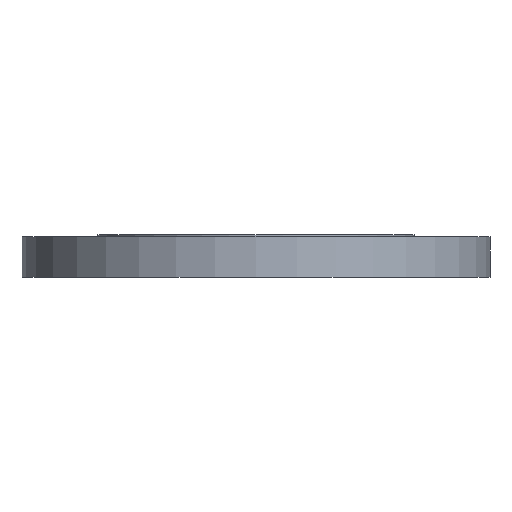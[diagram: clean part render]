
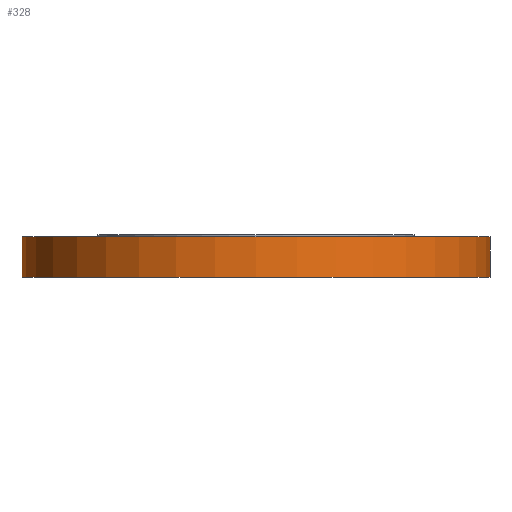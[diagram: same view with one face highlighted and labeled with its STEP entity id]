
A CAD part, front view. The second image highlights one B-rep face of the part: STEP entity #328.
In plain terms, the highlighted cylindrical face has radius 330 mm (diameter 660 mm), a partial arc.
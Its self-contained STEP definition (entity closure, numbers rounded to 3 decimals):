
#33 = CIRCLE ( 'NONE', #629, 330. ) ;
#97 = DIRECTION ( 'NONE',  ( 0., 0., -1. ) ) ;
#142 = VECTOR ( 'NONE', #839, 1000. ) ;
#152 = CARTESIAN_POINT ( 'NONE',  ( -330., 0., -60. ) ) ;
#193 = DIRECTION ( 'NONE',  ( 1., 0., 0. ) ) ;
#194 = DIRECTION ( 'NONE',  ( 0., 0., 1. ) ) ;
#198 = CARTESIAN_POINT ( 'NONE',  ( 0., 0., -145. ) ) ;
#199 = CYLINDRICAL_SURFACE ( 'NONE', #1532, 330. ) ;
#201 = FACE_OUTER_BOUND ( 'NONE', #898, .T. ) ;
#211 = CARTESIAN_POINT ( 'NONE',  ( 330., 0., -3. ) ) ;
#218 = CARTESIAN_POINT ( 'NONE',  ( -330., 0., -145. ) ) ;
#273 = CARTESIAN_POINT ( 'NONE',  ( 0., 0., -60. ) ) ;
#315 = VERTEX_POINT ( 'NONE', #211 ) ;
#328 = ADVANCED_FACE ( 'NONE', ( #201 ), #199, .T. ) ;
#343 = CARTESIAN_POINT ( 'NONE',  ( 330., 0., -60. ) ) ;
#380 = LINE ( 'NONE', #976, #676 ) ;
#404 = VERTEX_POINT ( 'NONE', #152 ) ;
#586 = CARTESIAN_POINT ( 'NONE',  ( -330., 0., -3. ) ) ;
#616 = EDGE_CURVE ( 'NONE', #404, #1075, #1403, .T. ) ;
#629 = AXIS2_PLACEMENT_3D ( 'NONE', #273, #902, #1363 ) ;
#676 = VECTOR ( 'NONE', #1398, 1000. ) ;
#682 = EDGE_CURVE ( 'NONE', #874, #404, #33, .T. ) ;
#701 = DIRECTION ( 'NONE',  ( -1., 0., 0. ) ) ;
#807 = ORIENTED_EDGE ( 'NONE', *, *, #616, .F. ) ;
#808 = ORIENTED_EDGE ( 'NONE', *, *, #682, .F. ) ;
#812 = ORIENTED_EDGE ( 'NONE', *, *, #1328, .T. ) ;
#815 = ORIENTED_EDGE ( 'NONE', *, *, #1132, .T. ) ;
#839 = DIRECTION ( 'NONE',  ( 0., 0., 1. ) ) ;
#857 = CIRCLE ( 'NONE', #862, 330. ) ;
#862 = AXIS2_PLACEMENT_3D ( 'NONE', #1373, #97, #701 ) ;
#874 = VERTEX_POINT ( 'NONE', #343 ) ;
#898 = EDGE_LOOP ( 'NONE', ( #807, #808, #812, #815 ) ) ;
#902 = DIRECTION ( 'NONE',  ( 0., 0., -1. ) ) ;
#976 = CARTESIAN_POINT ( 'NONE',  ( 330., 0., -145. ) ) ;
#1075 = VERTEX_POINT ( 'NONE', #586 ) ;
#1132 = EDGE_CURVE ( 'NONE', #315, #1075, #857, .T. ) ;
#1328 = EDGE_CURVE ( 'NONE', #874, #315, #380, .T. ) ;
#1363 = DIRECTION ( 'NONE',  ( -1., 0., 0. ) ) ;
#1373 = CARTESIAN_POINT ( 'NONE',  ( 0., 0., -3. ) ) ;
#1398 = DIRECTION ( 'NONE',  ( 0., 0., 1. ) ) ;
#1403 = LINE ( 'NONE', #218, #142 ) ;
#1532 = AXIS2_PLACEMENT_3D ( 'NONE', #198, #194, #193 ) ;
